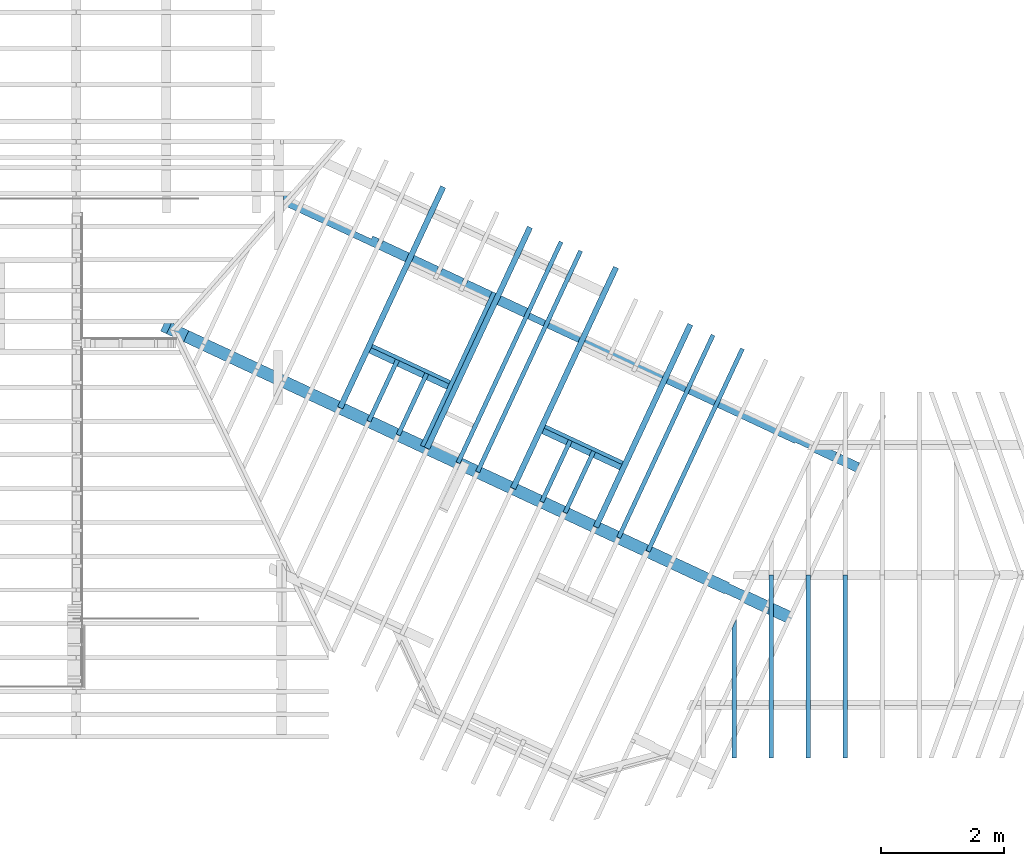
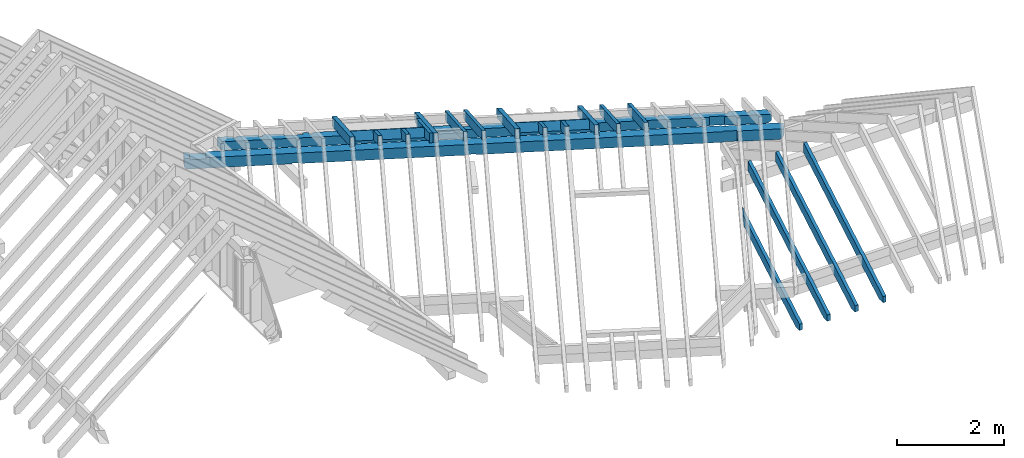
# One storey, part 4 of 11: 21 members.
"""IFC2X3 building model written with IfcOpenShell, lengths in metres."""

from ifc_helpers import new_model, si_unit, direction, frame, origin_with_axes, place, context, subcontext, project, spatial, faceted_brep, material, element, save


model = new_model("IFC2X3")

# Units and contexts
model_context = context("Model", 3, precision=1e-06, world=origin_with_axes(), true_north=direction((0.0, 1.0, 0.0)))
body_context = subcontext(model_context, "Body", "Model", "MODEL_VIEW")
ifc_project = project(units=[si_unit("LENGTHUNIT", "METRE"), si_unit("AREAUNIT", "SQUARE_METRE"), si_unit("VOLUMEUNIT", "CUBIC_METRE"), si_unit("PLANEANGLEUNIT", "RADIAN")], contexts=[model_context])

# Site, building, storey
site_placement = place(None, origin_with_axes())
site = spatial("IfcSite", under=ifc_project, at=site_placement, CompositionType="ELEMENT")
building_placement = place(site_placement, origin_with_axes())
building = spatial("IfcBuilding", under=site, at=building_placement, Name="Building 1", CompositionType="ELEMENT")
storey_placement = place(building_placement, origin_with_axes())
storey = spatial("IfcBuildingStorey", under=building, at=storey_placement, Name="Comble et couverture", CompositionType="ELEMENT", Elevation=0.0)

# Members
ifc_material = material(Name="NH II")
member_1_placement = place(storey_placement, frame((12.6025618, 2.1501112, 5.8873443), z_axis=(0.2113091, 0.4531539, 0.8660254), x_axis=(0.3659982, 0.7848856, -0.5)))
element("IfcMember", 1, at=member_1_placement, inside=storey, material=ifc_material, Name="Chevron", context=body_context, shape_type="Brep", body=[
    faceted_brep([(0.0, 0.035, 0.096), (0.0, -0.035, 0.096), (4.1839024, -0.035, 0.096), (4.1839024, 0.035, 0.096), (0.2227223, 0.035, -0.096), (0.2045309, 0.035, -0.0644018), (0.1498012, 0.035, -0.096), (0.1108513, 0.035, -0.096), (4.2639665, 0.035, -0.0426752), (4.1716052, 0.035, -0.096), (0.2227223, -0.035, -0.096), (4.1716052, -0.035, -0.096), (0.2045309, -0.035, -0.0644018), (4.2639665, -0.035, -0.0426752), (0.1108513, -0.035, -0.096), (0.1498012, -0.035, -0.096)], [[[0, 1, 2, 3]], [[4, 5, 6, 7, 0, 3, 8, 9]], [[10, 4, 9, 11]], [[12, 10, 11, 13, 2, 1, 14, 15]], [[10, 12, 5, 4]], [[12, 15, 6, 5]], [[6, 15, 14, 7]], [[14, 1, 0, 7]], [[13, 8, 3, 2]], [[8, 13, 11, 9]]]),
])
member_2_placement = place(storey_placement, frame((8.9461307, 3.855133, 5.8873226), z_axis=(0.2113091, 0.4531539, 0.8660254), x_axis=(0.3659982, 0.7848856, -0.5)))
element("IfcMember", 2, at=member_2_placement, inside=storey, material=ifc_material, Name="Chevron", context=body_context, shape_type="Brep", body=[
    faceted_brep([(3.2262584, 0.035, -0.096), (3.2707541, 0.035, -0.0703104), (3.2707541, -0.035, -0.0703104), (3.2262584, -0.035, -0.096), (3.1747347, 0.035, 0.096), (3.1747347, -0.035, 0.096), (0.2227742, 0.035, -0.096), (0.19952, 0.035, -0.0557227), (0.1297576, 0.035, -0.096), (0.1108513, 0.035, -0.096), (0.0, 0.035, 0.096), (0.2227742, -0.035, -0.096), (0.0, -0.035, 0.096), (0.1108513, -0.035, -0.096), (0.1297576, -0.035, -0.096), (0.19952, -0.035, -0.0557227)], [[[0, 1, 2, 3]], [[2, 1, 4, 5]], [[1, 0, 6, 7, 8, 9, 10, 4]], [[0, 3, 11, 6]], [[3, 2, 5, 12, 13, 14, 15, 11]], [[8, 7, 15, 14]], [[8, 14, 13, 9]], [[5, 4, 10, 12]], [[7, 6, 11, 15]], [[9, 13, 12, 10]]]),
])
member_3_placement = place(storey_placement, frame((4.7634243, 5.8551337, 5.6193053), z_axis=(0.0, 0.0, 1.0), x_axis=(0.9063078, -0.4226183, 0.0)))
element("IfcMember", 3, at=member_3_placement, inside=storey, material=ifc_material, Name="Panne", context=body_context, shape_type="Brep", body=[
    faceted_brep([(6.3028622, -0.1, 0.12), (6.3028622, 0.1, 0.12), (6.3028622, 0.1, 0.11), (6.3028622, -0.1, 0.11), (6.8058622, 0.1, 0.12), (6.8058622, 0.1, 0.11), (6.8058622, -0.1, 0.11), (6.8058622, -0.1, 0.12), (7.1314815, 0.1, 0.12), (7.1314815, -0.1, 0.12), (7.1314815, -0.1, 0.11), (7.1314815, 0.1, 0.11), (7.7848622, -0.1, 0.12), (7.7848622, 0.1, 0.12), (7.7848622, 0.1, 0.11), (7.7848622, -0.1, 0.11), (8.1804815, 0.1, 0.12), (8.1804815, 0.1, 0.11), (8.1804815, -0.1, 0.11), (8.1804815, -0.1, 0.12), (8.1104815, 0.1, 0.11), (8.1104815, 0.1, 0.12), (8.1104815, -0.1, 0.12), (8.1104815, -0.1, 0.11), (6.7358622, -0.1, 0.11), (6.7358622, -0.1, 0.12), (6.2108622, -0.1, 0.11), (6.2108622, -0.1, 0.12), (5.6580562, -0.1, 0.12), (5.6580562, -0.1, 0.11), (5.5880562, -0.1, 0.11), (5.5880562, -0.1, 0.12), (5.3090562, -0.1, 0.12), (5.3090562, -0.1, 0.11), (5.2390562, -0.1, 0.11), (5.2390562, -0.1, 0.12), (4.7630562, -0.1, 0.12), (4.7630562, -0.1, 0.11), (4.6710562, -0.1, 0.11), (4.6710562, -0.1, 0.12), (4.2380562, -0.1, 0.12), (4.2380562, -0.1, 0.11), (4.1680562, -0.1, 0.11), (4.1680562, -0.1, 0.12), (3.7140562, -0.1, 0.12), (3.7140562, -0.1, 0.11), (3.6440562, -0.1, 0.11), (3.6440562, -0.1, 0.12), (3.2110562, -0.1, 0.12), (3.2110562, -0.1, 0.11), (3.1190562, -0.1, 0.11), (3.1190562, -0.1, 0.12), (2.6508514, -0.1, 0.12), (2.6508514, -0.1, 0.11), (2.5808514, -0.1, 0.11), (2.5808514, -0.1, 0.12), (2.1860562, -0.1, 0.12), (2.1860562, -0.1, 0.11), (2.1160562, -0.1, 0.11), (2.1160562, -0.1, 0.12), (1.7096625, -0.1, 0.12), (1.7096625, -0.1, 0.11), (1.6396625, -0.1, 0.11), (1.6396625, -0.1, 0.12), (1.2332689, -0.1, 0.12), (1.2332689, -0.1, 0.11), (1.1632689, -0.1, 0.11), (1.1632689, -0.1, 0.12), (0.7568752, -0.1, 0.12), (0.7568752, -0.1, 0.11), (0.6868752, -0.1, 0.11), (0.6868752, -0.1, 0.12), (0.4124463, -0.1, 0.12), (0.4124463, -0.1, 0.09), (0.1056747, -0.1, 0.09), (0.1056747, -0.1, 0.12), (0.0, -0.1, 0.12), (0.0, -0.1, -0.072), (0.048, -0.1, -0.12), (2.0190023, -0.1, -0.12), (2.0190023, -0.1, -0.105), (2.1922326, -0.1, -0.105), (2.1922326, -0.1, -0.12), (5.3070562, -0.1, -0.12), (5.3070562, -0.1, -0.105), (5.4680562, -0.1, -0.105), (5.4680562, -0.1, -0.12), (10.0828622, -0.1, -0.12), (10.0828622, -0.1, 0.12), (9.7825288, -0.1, 0.12), (9.7825288, -0.1, 0.11), (9.7125288, -0.1, 0.11), (9.7125288, -0.1, 0.12), (9.1311955, -0.1, 0.12), (9.1311955, -0.1, 0.11), (9.0611955, -0.1, 0.11), (9.0611955, -0.1, 0.12), (8.7054815, -0.1, 0.12), (8.7054815, -0.1, 0.11), (8.6134815, -0.1, 0.11), (8.6134815, -0.1, 0.12), (7.6928622, -0.1, 0.11), (7.6928622, -0.1, 0.12), (7.2234815, -0.1, 0.12), (7.2234815, -0.1, 0.11), (8.6134815, 0.1, 0.12), (9.1311955, 0.1, 0.11), (9.0611955, 0.1, 0.11), (9.0611955, 0.1, 0.12), (9.1311955, 0.1, 0.12), (8.6134815, 0.1, 0.11), (8.7054815, 0.1, 0.11), (8.7054815, 0.1, 0.12), (6.2108622, 0.1, 0.11), (6.2108622, 0.1, 0.12), (7.6928622, 0.1, 0.11), (7.6928622, 0.1, 0.12), (7.2234815, 0.1, 0.11), (7.2234815, 0.1, 0.12), (6.7358622, 0.1, 0.11), (6.7358622, 0.1, 0.12), (3.6440562, 0.1, 0.11), (3.7140562, 0.1, 0.11), (3.6440562, 0.1, 0.12), (3.7140562, 0.1, 0.12), (3.1190562, 0.1, 0.11), (3.2110562, 0.1, 0.11), (3.1190562, 0.1, 0.12), (3.2110562, 0.1, 0.12), (0.0, 0.1, -0.072), (0.048, 0.1, -0.12), (1.9257407, 0.1, -0.12), (9.7125288, 0.1, 0.12), (9.7125288, 0.1, 0.11), (9.7825288, 0.1, 0.11), (9.7825288, 0.1, 0.12), (10.0828622, 0.1, 0.12), (10.0828622, 0.1, -0.12), (5.4680562, 0.1, -0.12), (5.4680562, 0.1, -0.105), (5.3070562, 0.1, -0.105), (5.3070562, 0.1, -0.12), (2.0989711, 0.1, -0.12), (2.0989711, 0.1, -0.105), (1.9257407, 0.1, -0.105), (0.0, 0.1, 0.12), (0.1056747, 0.1, 0.12), (0.1056747, 0.1, 0.09), (0.4124463, 0.1, 0.09), (0.4124463, 0.1, 0.12), (0.6868752, 0.1, 0.12), (0.6868752, 0.1, 0.11), (0.7568752, 0.1, 0.11), (0.7568752, 0.1, 0.12), (1.1632689, 0.1, 0.12), (1.1632689, 0.1, 0.11), (1.2332689, 0.1, 0.11), (1.2332689, 0.1, 0.12), (1.6396625, 0.1, 0.12), (1.6396625, 0.1, 0.11), (1.7096625, 0.1, 0.11), (1.7096625, 0.1, 0.12), (2.1160562, 0.1, 0.12), (2.1160562, 0.1, 0.11), (2.1860562, 0.1, 0.11), (2.1860562, 0.1, 0.12), (2.5808514, 0.1, 0.12), (2.5808514, 0.1, 0.11), (2.6508514, 0.1, 0.11), (2.6508514, 0.1, 0.12), (4.1680562, 0.1, 0.12), (4.1680562, 0.1, 0.11), (4.2380562, 0.1, 0.11), (4.2380562, 0.1, 0.12), (4.6710562, 0.1, 0.12), (4.6710562, 0.1, 0.11), (4.7630562, 0.1, 0.11), (4.7630562, 0.1, 0.12), (5.2390562, 0.1, 0.12), (5.2390562, 0.1, 0.11), (5.3090562, 0.1, 0.11), (5.3090562, 0.1, 0.12), (5.5880562, 0.1, 0.12), (5.5880562, 0.1, 0.11), (5.6580562, 0.1, 0.11), (5.6580562, 0.1, 0.12), (10.0828622, 0.085, -0.12), (10.3638622, 0.085, -0.12), (10.3638622, 0.1, -0.12), (11.1628622, 0.1, -0.12), (11.1628622, -0.1, -0.12), (10.3638622, -0.1, -0.12), (10.3638622, -0.085, -0.12), (10.0828622, -0.085, -0.12), (10.3638622, 0.1, 0.11), (10.4338622, 0.1, 0.11), (10.4338622, 0.1, 0.12), (10.7683622, 0.1, 0.12), (10.7683622, 0.1, 0.11), (10.8383622, 0.1, 0.11), (10.8383622, 0.1, 0.12), (11.1728622, 0.1, 0.12), (11.1728622, 0.1, 0.11), (11.2428622, 0.1, 0.11), (11.2428622, 0.1, -0.04), (10.3638622, -0.1, 0.11), (11.2428622, -0.1, -0.04), (11.2428622, -0.1, 0.11), (11.1728622, -0.1, 0.11), (11.1728622, -0.1, 0.12), (10.8383622, -0.1, 0.12), (10.8383622, -0.1, 0.11), (10.7683622, -0.1, 0.11), (10.7683622, -0.1, 0.12), (10.4338622, -0.1, 0.12), (10.4338622, -0.1, 0.11), (10.3638622, 0.085, 0.11), (10.0828622, 0.085, 0.12), (10.3638622, 0.085, 0.12), (10.3638622, -0.085, 0.12), (10.3638622, -0.085, 0.11), (10.0828622, -0.085, 0.12)], [[[0, 1, 2, 3]], [[4, 5, 6, 7]], [[8, 9, 10, 11]], [[12, 13, 14, 15]], [[16, 17, 18, 19]], [[20, 21, 22, 23]], [[17, 20, 23, 18]], [[6, 24, 25, 0, 3, 26, 27, 28, 29, 30, 31, 32, 33, 34, 35, 36, 37, 38, 39, 40, 41, 42, 43, 44, 45, 46, 47, 48, 49, 50, 51, 52, 53, 54, 55, 56, 57, 58, 59, 60, 61, 62, 63, 64, 65, 66, 67, 68, 69, 70, 71, 72, 73, 74, 75, 76, 77, 78, 79, 80, 81, 82, 83, 84, 85, 86, 87, 88, 89, 90, 91, 92, 93, 94, 95, 96, 97, 98, 99, 100, 19, 18, 23, 22, 12, 15, 101, 102, 103, 104, 10, 9, 7]], [[22, 21, 13, 12]], [[16, 19, 100, 105]], [[94, 106, 107, 95]], [[108, 96, 95, 107]], [[93, 109, 106, 94]], [[110, 99, 98, 111]], [[105, 100, 99, 110]], [[97, 112, 111, 98]], [[26, 3, 2, 113]], [[114, 27, 26, 113]], [[101, 15, 14, 115]], [[116, 102, 101, 115]], [[117, 11, 10, 104]], [[103, 118, 117, 104]], [[119, 24, 6, 5]], [[119, 120, 25, 24]], [[121, 46, 45, 122]], [[123, 47, 46, 121]], [[44, 124, 122, 45]], [[125, 50, 49, 126]], [[125, 127, 51, 50]], [[128, 126, 49, 48]], [[129, 130, 78, 77]], [[78, 130, 131, 79]], [[4, 8, 11, 117, 118, 116, 115, 14, 13, 21, 20, 17, 16, 105, 110, 111, 112, 108, 107, 106, 109, 132, 133, 134, 135, 136, 137, 138, 139, 140, 141, 142, 143, 144, 131, 130, 129, 145, 146, 147, 148, 149, 150, 151, 152, 153, 154, 155, 156, 157, 158, 159, 160, 161, 162, 163, 164, 165, 166, 167, 168, 169, 127, 125, 126, 128, 123, 121, 122, 124, 170, 171, 172, 173, 174, 175, 176, 177, 178, 179, 180, 181, 182, 183, 184, 185, 114, 113, 2, 1, 120, 119, 5]], [[86, 138, 137, 186, 187, 188, 189, 190, 191, 192, 193, 87]], [[188, 194, 195, 196, 197, 198, 199, 200, 201, 202, 203, 204, 189]], [[205, 191, 190, 206, 207, 208, 209, 210, 211, 212, 213, 214, 215]], [[200, 210, 209, 201]], [[196, 214, 213, 197]], [[74, 73, 148, 147]], [[75, 74, 147, 146]], [[131, 144, 80, 79]], [[144, 143, 81, 80]], [[143, 142, 82, 81]], [[141, 140, 84, 83]], [[140, 139, 85, 84]], [[139, 138, 86, 85]], [[82, 142, 141, 83]], [[188, 187, 216, 194]], [[186, 137, 136, 217]], [[187, 186, 217, 218, 216]], [[216, 218, 219, 220]], [[218, 217, 136, 135, 89, 88, 221, 219]], [[205, 220, 192, 191]], [[219, 221, 193, 192, 220]], [[221, 88, 87, 193]], [[73, 72, 149, 148]], [[75, 146, 145, 76]], [[153, 68, 67, 154]], [[149, 72, 71, 150]], [[157, 64, 63, 158]], [[161, 60, 59, 162]], [[165, 56, 55, 166]], [[169, 52, 51, 127]], [[123, 128, 48, 47]], [[170, 124, 44, 43]], [[173, 40, 39, 174]], [[177, 36, 35, 178]], [[181, 32, 31, 182]], [[185, 28, 27, 114]], [[120, 1, 0, 25]], [[8, 4, 7, 9]], [[116, 118, 103, 102]], [[97, 96, 108, 112]], [[132, 109, 93, 92]], [[174, 39, 38, 175]], [[36, 177, 176, 37]], [[40, 173, 172, 41]], [[171, 42, 41, 172]], [[170, 43, 42, 171]], [[28, 185, 184, 29]], [[183, 30, 29, 184]], [[182, 31, 30, 183]], [[35, 34, 179, 178]], [[33, 180, 179, 34]], [[33, 32, 181, 180]], [[55, 54, 167, 166]], [[53, 168, 167, 54]], [[53, 52, 169, 168]], [[71, 70, 151, 150]], [[69, 68, 153, 152]], [[151, 70, 69, 152]], [[59, 58, 163, 162]], [[57, 164, 163, 58]], [[57, 56, 165, 164]], [[63, 62, 159, 158]], [[61, 60, 161, 160]], [[159, 62, 61, 160]], [[67, 66, 155, 154]], [[65, 64, 157, 156]], [[155, 66, 65, 156]], [[132, 92, 91, 133]], [[90, 134, 133, 91]], [[89, 135, 134, 90]], [[215, 195, 194, 216, 220, 205]], [[214, 196, 195, 215]], [[37, 176, 175, 38]], [[129, 77, 76, 145]], [[211, 199, 198, 212]], [[210, 200, 199, 211]], [[197, 213, 212, 198]], [[206, 190, 189, 204]], [[206, 204, 203, 207]], [[207, 203, 202, 208]], [[201, 209, 208, 202]]]),
])
member_4_placement = place(storey_placement, frame((16.0823537, 3.5257777, 4.0910549), z_axis=(0.0, 0.0, 1.0), x_axis=(-0.9063078, 0.4226183, 0.0)))
element("IfcMember", 4, at=member_4_placement, inside=storey, material=ifc_material, Name="Panne", context=body_context, shape_type="Brep", body=[
    faceted_brep([(7.144806, -0.0284978, 0.1), (7.074806, -0.0284978, 0.1), (7.074806, -0.08, 0.0702652), (7.144806, -0.08, 0.0702652), (7.074806, -0.08, 0.1), (7.144806, -0.08, 0.1), (3.0623807, -0.08, 0.1), (3.0623807, -0.08, 0.0703477), (3.0623807, -0.0286406, 0.1), (3.1323807, -0.08, 0.0703477), (3.1323807, -0.08, 0.1), (3.1323807, -0.0286406, 0.1), (6.571806, -0.08, 0.1), (7.528806, -0.08, 0.1), (7.528806, -0.0285258, 0.1), (7.598806, -0.0285258, 0.1), (7.598806, -0.08, 0.1), (8.031806, -0.08, 0.1), (8.031806, -0.0285538, 0.1), (8.123806, -0.0285538, 0.1), (8.123806, -0.08, 0.1), (8.5920107, -0.08, 0.1), (8.5920107, -0.0286209, 0.1), (8.6620107, -0.0286209, 0.1), (8.6620107, -0.08, 0.1), (8.775806, -0.08, 0.1), (8.775806, -0.025, 0.1), (9.055806, -0.025, 0.1), (9.055806, -0.08, 0.1), (9.056806, -0.08, 0.1), (9.056806, -0.0286209, 0.1), (9.126806, -0.0286209, 0.1), (9.126806, -0.08, 0.1), (9.5331996, -0.08, 0.1), (9.5331996, -0.0286041, 0.1), (9.6031996, -0.0286041, 0.1), (9.6031996, -0.08, 0.1), (10.0095933, -0.08, 0.1), (10.0095933, -0.0286041, 0.1), (10.0795933, -0.0286041, 0.1), (10.0795933, -0.08, 0.1), (10.3088723, -0.08, 0.1), (10.3170086, -0.076206, 0.1), (10.3187778, -0.08, 0.1), (10.3774493, -0.08, 0.1), (10.3028401, 0.08, 0.1), (1.16, 0.08, 0.1), (1.16, 0.06, 0.1), (0.879, 0.06, 0.1), (0.879, 0.08, 0.1), (0.0, 0.08, 0.1), (0.0, -0.0285538, 0.1), (0.07, -0.0285538, 0.1), (0.07, -0.08, 0.1), (0.4045, -0.08, 0.1), (0.4045, -0.0286062, 0.1), (0.4745, -0.0286062, 0.1), (0.4745, -0.08, 0.1), (0.809, -0.08, 0.1), (0.809, -0.0286586, 0.1), (0.879, -0.0286586, 0.1), (0.879, -0.08, 0.1), (1.4603333, -0.08, 0.1), (1.4603333, -0.0286586, 0.1), (1.5303333, -0.0286586, 0.1), (1.5303333, -0.08, 0.1), (2.1116667, -0.08, 0.1), (2.1116667, -0.0286586, 0.1), (2.1816667, -0.0286586, 0.1), (2.1816667, -0.08, 0.1), (2.5373807, -0.08, 0.1), (2.5373807, -0.0286586, 0.1), (2.6073807, -0.0286586, 0.1), (2.6073807, -0.08, 0.1), (3.458, -0.08, 0.1), (3.458, -0.0286586, 0.1), (3.55, -0.0286586, 0.1), (3.55, -0.08, 0.1), (3.983, -0.08, 0.1), (3.983, -0.0286586, 0.1), (4.053, -0.0286586, 0.1), (4.053, -0.08, 0.1), (4.437, -0.08, 0.1), (4.437, -0.0286586, 0.1), (4.507, -0.0286586, 0.1), (4.507, -0.08, 0.1), (4.94, -0.08, 0.1), (4.94, -0.0286586, 0.1), (5.032, -0.0286586, 0.1), (5.032, -0.08, 0.1), (5.584806, -0.08, 0.1), (5.584806, -0.0286586, 0.1), (5.654806, -0.0286586, 0.1), (5.654806, -0.08, 0.1), (5.655806, -0.08, 0.1), (5.655806, -0.025, 0.1), (5.933806, -0.025, 0.1), (5.933806, -0.0286391, 0.1), (6.003806, -0.0286391, 0.1), (6.003806, -0.08, 0.1), (6.479806, -0.08, 0.1), (6.479806, -0.0284699, 0.1), (6.571806, -0.0284699, 0.1), (2.6073807, -0.08, 0.070358), (2.5373807, -0.08, 0.070358), (3.458, -0.08, 0.070358), (3.55, -0.08, 0.070358), (3.983, -0.08, 0.070358), (4.053, -0.08, 0.070358), (4.437, -0.08, 0.070358), (4.507, -0.08, 0.070358), (5.032, -0.08, 0.070358), (8.031806, -0.08, 0.0702975), (8.123806, -0.08, 0.0702975), (7.528806, -0.08, 0.0702814), (7.598806, -0.08, 0.0702814), (1.16, 0.06, -0.1), (0.879, 0.06, -0.1), (0.4745, -0.08, 0.0703278), (0.4045, -0.08, 0.0703278), (10.3088723, -0.08, 0.092467), (10.0795933, -0.08, 0.0703266), (10.0095933, -0.08, 0.0703266), (9.6031996, -0.08, 0.0703266), (9.5331996, -0.08, 0.0703266), (9.126806, -0.08, 0.0703362), (9.056806, -0.08, 0.0703362), (9.055806, -0.08, -0.1), (10.3774493, -0.08, -0.1), (9.055806, -0.025, -0.1), (8.775806, -0.025, -0.1), (8.775806, -0.08, -0.1), (6.571806, -0.08, 0.0702491), (6.479806, -0.08, 0.0702491), (6.003806, -0.08, 0.0703468), (5.933806, -0.08, 0.0703468), (5.933806, -0.08, -0.1), (8.6620107, -0.08, 0.0703362), (8.5920107, -0.08, 0.0703362), (5.655806, -0.08, -0.1), (0.0666667, -0.08, -0.1), (0.0666667, 0.08, -0.1), (0.879, 0.08, -0.1), (1.16, 0.08, -0.1), (10.3028401, 0.08, -0.1), (5.933806, -0.025, -0.1), (5.655806, -0.025, -0.1), (2.1816667, -0.08, 0.070358), (2.1116667, -0.08, 0.070358), (1.5303333, -0.08, 0.070358), (1.4603333, -0.08, 0.070358), (0.879, -0.08, 0.070358), (0.809, -0.08, 0.070358), (0.07, -0.08, 0.0702975), (0.0, -0.08, 0.0702975), (0.0, -0.08, -0.0333333), (5.654806, -0.08, 0.070358), (5.584806, -0.08, 0.070358), (4.94, -0.08, 0.070358), (0.0, 0.08, -0.0333333)], [[[0, 1, 2, 3]], [[1, 4, 2]], [[5, 0, 3]], [[6, 7, 8]], [[9, 10, 11]], [[7, 9, 11, 8]], [[12, 4, 1, 0, 5, 13, 14, 15, 16, 17, 18, 19, 20, 21, 22, 23, 24, 25, 26, 27, 28, 29, 30, 31, 32, 33, 34, 35, 36, 37, 38, 39, 40, 41, 42, 43, 44, 45, 46, 47, 48, 49, 50, 51, 52, 53, 54, 55, 56, 57, 58, 59, 60, 61, 62, 63, 64, 65, 66, 67, 68, 69, 70, 71, 72, 73, 6, 8, 11, 10, 74, 75, 76, 77, 78, 79, 80, 81, 82, 83, 84, 85, 86, 87, 88, 89, 90, 91, 92, 93, 94, 95, 96, 97, 98, 99, 100, 101, 102]], [[73, 72, 103]], [[72, 71, 104, 103]], [[71, 70, 104]], [[75, 74, 105]], [[76, 75, 105, 106]], [[77, 76, 106]], [[80, 79, 107, 108]], [[79, 78, 107]], [[81, 80, 108]], [[83, 82, 109]], [[84, 83, 109, 110]], [[85, 84, 110]], [[89, 88, 111]], [[19, 18, 112, 113]], [[18, 17, 112]], [[20, 19, 113]], [[15, 14, 114, 115]], [[14, 13, 114]], [[16, 15, 115]], [[116, 117, 48, 47]], [[118, 57, 56]], [[119, 118, 56, 55]], [[54, 119, 55]], [[43, 42, 120]], [[42, 41, 120]], [[43, 120, 41, 40, 121, 122, 37, 36, 123, 124, 33, 32, 125, 126, 29, 28, 127, 128, 44]], [[28, 27, 129, 127]], [[27, 26, 130, 129]], [[26, 25, 131, 130]], [[3, 2, 4, 12, 132, 133, 100, 99, 134, 135, 136, 131, 25, 24, 137, 138, 21, 20, 113, 112, 17, 16, 115, 114, 13, 5]], [[139, 140, 141, 142, 117, 116, 143, 144, 128, 127, 129, 130, 131, 136, 145, 146]], [[95, 94, 139, 146]], [[97, 96, 145, 136, 135]], [[146, 145, 96, 95]], [[7, 6, 73, 103, 104, 70, 69, 147, 148, 66, 65, 149, 150, 62, 61, 151, 152, 58, 57, 118, 119, 54, 53, 153, 154, 155, 140, 139, 94, 93, 156, 157, 90, 89, 111, 158, 86, 85, 110, 109, 82, 81, 108, 107, 78, 77, 106, 105, 74, 10, 9]], [[143, 116, 47, 46]], [[49, 48, 117, 142]], [[143, 46, 45, 144]], [[142, 141, 159, 50, 49]], [[12, 102, 132]], [[101, 100, 133]], [[102, 101, 133, 132]], [[93, 92, 156]], [[91, 90, 157]], [[92, 91, 157, 156]], [[99, 98, 134]], [[98, 97, 135, 134]], [[24, 23, 137]], [[22, 21, 138]], [[23, 22, 138, 137]], [[32, 31, 125]], [[30, 29, 126]], [[31, 30, 126, 125]], [[124, 123, 35, 34]], [[33, 124, 34]], [[123, 36, 35]], [[39, 38, 122, 121]], [[40, 39, 121]], [[38, 37, 122]], [[87, 86, 158]], [[158, 111, 88, 87]], [[62, 150, 63]], [[150, 149, 64, 63]], [[149, 65, 64]], [[58, 152, 59]], [[152, 151, 60, 59]], [[151, 61, 60]], [[66, 148, 67]], [[148, 147, 68, 67]], [[147, 69, 68]], [[128, 144, 45, 44]], [[159, 141, 140, 155]], [[159, 155, 154, 51, 50]], [[52, 51, 154, 153]], [[53, 52, 153]]]),
])
member_5_placement = place(storey_placement, frame((8.5536995, 4.0381267, 5.8872515), z_axis=(0.2113091, 0.4531539, 0.8660254), x_axis=(0.3659982, 0.7848856, -0.5)))
element("IfcMember", 5, at=member_5_placement, inside=storey, material=ifc_material, Name="Chevron", context=body_context, shape_type="Brep", body=[
    faceted_brep([(1.2660521, 0.035, -0.096), (1.2660521, -0.035, -0.096), (0.2227742, -0.035, -0.096), (0.2227742, 0.035, -0.096), (1.2660521, -0.035, 0.096), (0.0, -0.035, 0.096), (0.1108513, -0.035, -0.096), (0.1496801, -0.035, -0.096), (0.2044845, -0.035, -0.0643214), (1.2660521, 0.035, 0.096), (0.0, 0.035, 0.096), (0.2044845, 0.035, -0.0643214), (0.1496801, 0.035, -0.096), (0.1108513, 0.035, -0.096)], [[[0, 1, 2, 3]], [[1, 4, 5, 6, 7, 8, 2]], [[4, 9, 10, 5]], [[2, 8, 11, 3]], [[8, 7, 12, 11]], [[12, 7, 6, 13]], [[6, 5, 10, 13]], [[9, 0, 3, 11, 12, 13, 10]], [[0, 9, 4, 1]]]),
])
member_6_placement = place(storey_placement, frame((10.8809144, 2.9529087, 5.8873443), z_axis=(0.2113091, 0.4531539, 0.8660254), x_axis=(0.3659982, 0.7848856, -0.5)))
element("IfcMember", 6, at=member_6_placement, inside=storey, material=ifc_material, Name="Chevron", context=body_context, shape_type="Brep", body=[
    faceted_brep([(1.2661712, -0.035, -0.096), (1.2661712, -0.035, 0.096), (0.0, -0.035, 0.096), (0.1108513, -0.035, -0.096), (0.1498012, -0.035, -0.096), (0.2045309, -0.035, -0.0644018), (0.2227742, -0.035, -0.096), (1.2661712, 0.035, 0.096), (0.0, 0.035, 0.096), (1.2661712, 0.035, -0.096), (0.2227742, 0.035, -0.096), (0.2045309, 0.035, -0.0644018), (0.1498012, 0.035, -0.096), (0.1108513, 0.035, -0.096)], [[[0, 1, 2, 3, 4, 5, 6]], [[1, 7, 8, 2]], [[7, 9, 10, 11, 12, 13, 8]], [[6, 5, 11, 10]], [[5, 4, 12, 11]], [[12, 4, 3, 13]], [[2, 8, 13, 3]], [[9, 0, 6, 10]], [[0, 9, 7, 1]]]),
])
member_7_placement = place(storey_placement, frame((11.7582279, 2.5438305, 5.8873443), z_axis=(0.2113091, 0.4531539, 0.8660254), x_axis=(0.3659982, 0.7848856, -0.5)))
element("IfcMember", 7, at=member_7_placement, inside=storey, material=ifc_material, Name="Chevron", context=body_context, shape_type="Brep", body=[
    faceted_brep([(0.2227742, -0.046, -0.096), (0.2227742, 0.046, -0.096), (4.1716052, 0.046, -0.096), (4.1716052, -0.046, -0.096), (0.0, 0.046, 0.096), (0.0, -0.046, 0.096), (4.1839405, -0.046, 0.096), (4.1839405, 0.046, 0.096), (0.2045309, 0.046, -0.0644018), (0.1498012, 0.046, -0.096), (0.1108513, 0.046, -0.096), (4.2639665, 0.046, -0.0426092), (0.2045309, -0.046, -0.0644018), (4.2639665, -0.046, -0.0426752), (0.1108513, -0.046, -0.096), (0.1498012, -0.046, -0.096)], [[[0, 1, 2, 3]], [[4, 5, 6, 7]], [[1, 8, 9, 10, 4, 7, 11, 2]], [[12, 0, 3, 13, 6, 5, 14, 15]], [[9, 8, 12, 15]], [[8, 1, 0, 12]], [[9, 15, 14, 10]], [[14, 5, 4, 10]], [[13, 3, 2, 11]], [[11, 13, 11]], [[6, 13, 11, 7]]]),
])
member_8_placement = place(storey_placement, frame((11.259406, 2.7764152, 5.8873443), z_axis=(0.2113091, 0.4531539, 0.8660254), x_axis=(0.3659982, 0.7848856, -0.5)))
element("IfcMember", 8, at=member_8_placement, inside=storey, material=ifc_material, Name="Chevron", context=body_context, shape_type="Brep", body=[
    faceted_brep([(1.2661712, -0.035, -0.096), (1.2661712, -0.035, 0.096), (0.0, -0.035, 0.096), (0.1108513, -0.035, -0.096), (0.1498012, -0.035, -0.096), (0.2045309, -0.035, -0.0644018), (0.2227742, -0.035, -0.096), (1.2661712, 0.035, 0.096), (0.0, 0.035, 0.096), (1.2661712, 0.035, -0.096), (0.2227742, 0.035, -0.096), (0.2045309, 0.035, -0.0644018), (0.1498012, 0.035, -0.096), (0.1108513, 0.035, -0.096)], [[[0, 1, 2, 3, 4, 5, 6]], [[1, 7, 8, 2]], [[7, 9, 10, 11, 12, 13, 8]], [[6, 5, 11, 10]], [[5, 4, 12, 11]], [[12, 4, 3, 13]], [[2, 8, 13, 3]], [[9, 0, 6, 10]], [[0, 9, 7, 1]]]),
])
for number, where, z_axis, x_axis, name in (
    (9, (9.0195417, 3.8209009, 5.8872354), (0.2113091, 0.4531539, 0.8660254), (0.3659982, 0.7848856, -0.5), "Chevron"),
    (10, (10.4151011, 3.1701964, 5.8872354), (0.2113091, 0.4531539, 0.8660254), (0.3659982, 0.7848856, -0.5), "Chevron"),
):
    element("IfcMember", number, at=place(storey_placement, frame(where, z_axis=z_axis, x_axis=x_axis)), inside=storey, material=ifc_material, Name=name, context=body_context, shape_type="Brep", body=[
        faceted_brep([(0.2227742, -0.046, -0.096), (0.2227742, 0.046, -0.096), (4.5510821, 0.046, -0.096), (4.5510821, -0.046, -0.096), (0.0, 0.046, 0.096), (0.0, -0.046, 0.096), (4.5638538, -0.046, 0.096), (4.5638538, 0.046, 0.096), (0.2044764, 0.046, -0.0643074), (0.1495833, 0.046, -0.096), (0.1108513, 0.046, -0.096), (4.6437266, 0.046, -0.0423438), (4.6437266, 0.046, -0.0425116), (0.2044764, -0.046, -0.0643074), (4.6437266, -0.046, -0.0425116), (4.6437266, -0.046, -0.0423438), (0.1108513, -0.046, -0.096), (0.1495833, -0.046, -0.096)], [[[0, 1, 2, 3]], [[4, 5, 6, 7]], [[1, 8, 9, 10, 4, 7, 11, 12, 2]], [[13, 0, 3, 14, 15, 6, 5, 16, 17]], [[9, 8, 13, 17]], [[8, 1, 0, 13]], [[9, 17, 16, 10]], [[16, 5, 4, 10]], [[14, 3, 2, 12]], [[11, 15, 14, 12]], [[6, 15, 11, 7]]]),
    ])
member_9_placement = place(storey_placement, frame((9.8406565, 3.4380088, 5.8873443), z_axis=(0.2113091, 0.4531539, 0.8660254), x_axis=(0.3659982, 0.7848856, -0.5)))
element("IfcMember", 11, at=member_9_placement, inside=storey, material=ifc_material, Name="Chevron", context=body_context, shape_type="Brep", body=[
    faceted_brep([(0.0, 0.035, 0.096), (0.0, -0.035, 0.096), (4.5638538, -0.035, 0.096), (4.5638538, 0.035, 0.096), (0.2227742, 0.035, -0.096), (0.2045309, 0.035, -0.0644018), (0.1498012, 0.035, -0.096), (0.1108513, 0.035, -0.096), (4.6438538, 0.035, -0.0425641), (4.5513, 0.035, -0.096), (0.2227742, -0.035, -0.096), (4.5513, -0.035, -0.096), (0.2045309, -0.035, -0.0644018), (4.6438538, -0.035, -0.0425641), (0.1108513, -0.035, -0.096), (0.1498012, -0.035, -0.096)], [[[0, 1, 2, 3]], [[4, 5, 6, 7, 0, 3, 8, 9]], [[10, 4, 9, 11]], [[12, 10, 11, 13, 2, 1, 14, 15]], [[6, 5, 12, 15]], [[5, 4, 10, 12]], [[6, 15, 14, 7]], [[7, 14, 1, 0]], [[13, 8, 3, 2]], [[13, 11, 9, 8]]]),
])
member_10_placement = place(storey_placement, frame((8.1308595, 5.4786155, 5.2367224), z_axis=(0.2113091, 0.4531539, 0.8660254), x_axis=(0.9063078, -0.4226183, 0.0)))
element("IfcMember", 12, at=member_10_placement, inside=storey, material=ifc_material, Name="Chevetre", context=body_context, shape_type="Brep", body=[
    faceted_brep([(0.0, 0.035, -0.096), (0.0, -0.035, -0.096), (0.0, -0.035, 0.096), (0.0, 0.035, 0.096), (1.39, -0.035, -0.096), (1.39, -0.035, 0.096), (1.39, 0.035, -0.096), (1.39, 0.035, 0.096)], [[[0, 1, 2, 3]], [[2, 1, 4, 5]], [[1, 0, 6, 4]], [[6, 7, 5, 4]], [[3, 2, 5, 7]], [[0, 3, 7, 6]]]),
])
member_11_placement = place(storey_placement, frame((9.5243551, 3.5855025, 5.8873331), z_axis=(0.2113091, 0.4531539, 0.8660254), x_axis=(0.3659982, 0.7848856, -0.5)))
element("IfcMember", 13, at=member_11_placement, inside=storey, material=ifc_material, Name="Chevron", context=body_context, shape_type="Brep", body=[
    faceted_brep([(0.0, 0.035, 0.096), (0.0, -0.035, 0.096), (4.5639313, -0.035, 0.096), (4.5639313, 0.035, 0.096), (0.2227742, 0.035, -0.096), (0.2045007, 0.035, -0.0643494), (0.1497407, 0.035, -0.096), (0.1108513, 0.035, -0.096), (4.6438538, 0.035, -0.0425641), (4.5512564, 0.035, -0.096), (0.2227742, -0.035, -0.096), (4.5512564, -0.035, -0.096), (0.2045007, -0.035, -0.0643494), (4.6438538, -0.035, -0.0425641), (0.1108513, -0.035, -0.096), (0.1497407, -0.035, -0.096)], [[[0, 1, 2, 3]], [[4, 5, 6, 7, 0, 3, 8, 9]], [[10, 4, 9, 11]], [[12, 10, 11, 13, 2, 1, 14, 15]], [[6, 5, 12, 15]], [[5, 4, 10, 12]], [[6, 15, 14, 7]], [[7, 14, 1, 0]], [[13, 8, 3, 2]], [[13, 11, 9, 8]]]),
])
member_12_placement = place(storey_placement, frame((7.6129732, 4.4768501, 5.8872838), z_axis=(0.2113091, 0.4531539, 0.8660254), x_axis=(0.3659982, 0.7848856, -0.5)))
element("IfcMember", 14, at=member_12_placement, inside=storey, material=ifc_material, Name="Chevron", context=body_context, shape_type="Brep", body=[
    faceted_brep([(0.2227742, -0.046, -0.096), (0.2227742, 0.046, -0.096), (4.5511789, 0.046, -0.096), (4.5511789, -0.046, -0.096), (0.1496801, -0.046, -0.096), (0.2045007, -0.046, -0.0643494), (4.6438235, -0.046, -0.0425116), (4.5638538, -0.046, 0.096), (0.0, -0.046, 0.096), (0.1108513, -0.046, -0.096), (0.0, 0.046, 0.096), (4.5638538, 0.046, 0.096), (0.2045007, 0.046, -0.0643494), (0.1496801, 0.046, -0.096), (0.1108513, 0.046, -0.096), (4.6438235, 0.046, -0.0425116)], [[[0, 1, 2, 3]], [[4, 5, 0, 3, 6, 7, 8, 9]], [[10, 8, 7, 11]], [[12, 13, 14, 10, 11, 15, 2, 1]], [[13, 12, 5, 4]], [[12, 1, 0, 5]], [[13, 4, 9, 14]], [[10, 14, 9, 8]], [[6, 3, 2, 15]], [[6, 15, 11, 7]]]),
])
member_13_placement = place(storey_placement, frame((8.0788155, 4.2596243, 5.8872677), z_axis=(0.2113091, 0.4531539, 0.8660254), x_axis=(0.3659982, 0.7848856, -0.5)))
element("IfcMember", 15, at=member_13_placement, inside=storey, material=ifc_material, Name="Chevron", context=body_context, shape_type="Brep", body=[
    faceted_brep([(1.2660521, 0.035, -0.096), (1.2660521, -0.035, -0.096), (0.2227742, -0.035, -0.096), (0.2227742, 0.035, -0.096), (1.2660521, -0.035, 0.096), (0.0, -0.035, 0.096), (0.1108513, -0.035, -0.096), (0.1496801, -0.035, -0.096), (0.2044845, -0.035, -0.0643214), (1.2660521, 0.035, 0.096), (0.0, 0.035, 0.096), (0.2044845, 0.035, -0.0643214), (0.1496801, 0.035, -0.096), (0.1108513, 0.035, -0.096)], [[[0, 1, 2, 3]], [[1, 4, 5, 6, 7, 8, 2]], [[4, 9, 10, 5]], [[2, 8, 11, 3]], [[8, 7, 12, 11]], [[12, 7, 6, 13]], [[6, 5, 10, 13]], [[9, 0, 3, 11, 12, 13, 10]], [[0, 9, 4, 1]]]),
])
for number, where, z_axis, x_axis, name in (
    (16, (15.819553, 1.8547799, 4.5486399), (0.0, -0.5, 0.8660254), (0.0, -0.8660254, -0.5), "Chevron"),
    (17, (15.219553, 1.8547799, 4.5486399), (0.0, -0.5, 0.8660254), (0.0, -0.8660254, -0.5), "Chevron"),
):
    element("IfcMember", number, at=place(storey_placement, frame(where, z_axis=z_axis, x_axis=x_axis)), inside=storey, material=ifc_material, Name=name, context=body_context, shape_type="Brep", body=[
        faceted_brep([(0.0, 0.035, 0.096), (0.0, -0.035, 0.096), (3.4238981, -0.035, 0.096), (3.4238981, 0.035, 0.096), (0.1108513, -0.035, -0.096), (0.1603581, -0.035, -0.096), (0.1899119, -0.035, -0.0789371), (0.1997631, -0.035, -0.096), (3.3713443, -0.035, -0.096), (3.4938981, -0.035, -0.0252436), (0.1108513, 0.035, -0.096), (3.4938981, 0.035, -0.0252436), (3.3713443, 0.035, -0.096), (0.1997631, 0.035, -0.096), (0.1899119, 0.035, -0.0789371), (0.1603581, 0.035, -0.096)], [[[0, 1, 2, 3]], [[1, 4, 5, 6, 7, 8, 9, 2]], [[10, 0, 3, 11, 12, 13, 14, 15]], [[7, 13, 12, 8]], [[10, 4, 1, 0]], [[4, 10, 15, 5]], [[7, 6, 14, 13]], [[6, 5, 15, 14]], [[9, 11, 3, 2]], [[8, 12, 11, 9]]]),
    ])
member_14_placement = place(storey_placement, frame((12.1267426, 2.3719695, 5.8873443), z_axis=(0.2113091, 0.4531539, 0.8660254), x_axis=(0.3659982, 0.7848856, -0.5)))
element("IfcMember", 18, at=member_14_placement, inside=storey, material=ifc_material, Name="Chevron", context=body_context, shape_type="Brep", body=[
    faceted_brep([(0.0, 0.035, 0.096), (0.0, -0.035, 0.096), (4.1839024, -0.035, 0.096), (4.1839024, 0.035, 0.096), (0.2227223, 0.035, -0.096), (0.2045309, 0.035, -0.0644018), (0.1498012, 0.035, -0.096), (0.1108513, 0.035, -0.096), (4.2639665, 0.035, -0.0426752), (4.1716052, 0.035, -0.096), (0.2227223, -0.035, -0.096), (4.1716052, -0.035, -0.096), (0.2045309, -0.035, -0.0644018), (4.2639665, -0.035, -0.0426752), (0.1108513, -0.035, -0.096), (0.1498012, -0.035, -0.096)], [[[0, 1, 2, 3]], [[4, 5, 6, 7, 0, 3, 8, 9]], [[10, 4, 9, 11]], [[12, 10, 11, 13, 2, 1, 14, 15]], [[10, 12, 5, 4]], [[12, 15, 6, 5]], [[6, 15, 14, 7]], [[14, 1, 0, 7]], [[13, 8, 3, 2]], [[8, 13, 11, 9]]]),
])
member_15_placement = place(storey_placement, frame((14.019553, 1.1394023, 4.1356164), z_axis=(0.0, -0.5, 0.8660254), x_axis=(0.0, -0.8660254, -0.5)))
element("IfcMember", 19, at=member_15_placement, inside=storey, material=ifc_material, Name="Chevron", context=body_context, shape_type="Brep", body=[
    faceted_brep([(0.0, 0.035, 0.096), (0.1733384, -0.035, 0.096), (2.5978517, -0.035, 0.096), (2.5978517, 0.035, 0.096), (0.2841897, -0.035, -0.096), (2.545298, -0.035, -0.096), (2.6678517, -0.035, -0.0252436), (0.1108513, 0.035, -0.096), (2.6678517, 0.035, -0.0252436), (2.545298, 0.035, -0.096)], [[[0, 1, 2, 3]], [[1, 4, 5, 6, 2]], [[7, 0, 3, 8, 9]], [[4, 7, 9, 5]], [[0, 7, 4, 1]], [[6, 8, 3, 2]], [[5, 9, 8, 6]]]),
])
member_16_placement = place(storey_placement, frame((14.619553, 1.8547799, 4.5486399), z_axis=(0.0, -0.5, 0.8660254), x_axis=(0.0, -0.8660254, -0.5)))
element("IfcMember", 20, at=member_16_placement, inside=storey, material=ifc_material, Name="Chevron", context=body_context, shape_type="Brep", body=[
    faceted_brep([(0.0, 0.035, 0.096), (0.0, -0.035, 0.096), (3.4238981, -0.035, 0.096), (3.4238981, 0.035, 0.096), (0.1108513, -0.035, -0.096), (0.1603581, -0.035, -0.096), (0.1899119, -0.035, -0.0789371), (0.1997631, -0.035, -0.096), (3.3713443, -0.035, -0.096), (3.4938981, -0.035, -0.0252436), (0.1108513, 0.035, -0.096), (3.4938981, 0.035, -0.0252436), (3.3713443, 0.035, -0.096), (0.1997631, 0.035, -0.096), (0.1899119, 0.035, -0.0789371), (0.1603581, 0.035, -0.096)], [[[0, 1, 2, 3]], [[1, 4, 5, 6, 7, 8, 9, 2]], [[10, 0, 3, 11, 12, 13, 14, 15]], [[7, 13, 12, 8]], [[10, 4, 1, 0]], [[4, 10, 15, 5]], [[7, 6, 14, 13]], [[6, 5, 15, 14]], [[9, 11, 3, 2]], [[8, 12, 11, 9]]]),
])
member_17_placement = place(storey_placement, frame((10.9330228, 4.1720379, 5.2367224), z_axis=(0.2113091, 0.4531539, 0.8660254), x_axis=(0.9063078, -0.4226183, 0.0)))
element("IfcMember", 21, at=member_17_placement, inside=storey, material=ifc_material, Name="Chevetre", context=body_context, shape_type="Brep", body=[
    faceted_brep([(0.0, 0.035, -0.096), (0.0, -0.035, -0.096), (0.0, -0.035, 0.096), (0.0, 0.035, 0.096), (1.39, -0.035, -0.096), (1.39, -0.035, 0.096), (1.39, 0.035, -0.096), (1.39, 0.035, 0.096)], [[[0, 1, 2, 3]], [[2, 1, 4, 5]], [[1, 0, 6, 4]], [[6, 7, 5, 4]], [[3, 2, 5, 7]], [[0, 3, 7, 6]]]),
])

save(model, "model.ifc")
